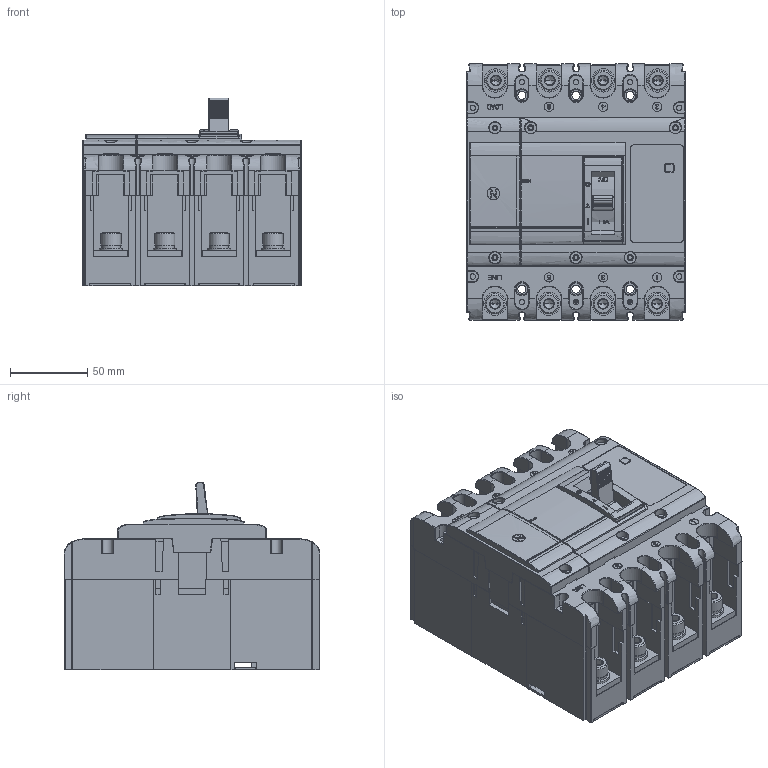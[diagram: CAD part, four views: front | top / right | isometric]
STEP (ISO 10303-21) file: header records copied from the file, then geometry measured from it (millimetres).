
FILE_DESCRIPTION((''),'2;1');
FILE_NAME('2TZD-259-1017-1-32_ASM_ASM','2019-03-16T',('Administrator'),(''),'PRO/ENGINEER BY PARAMETRIC TECHNOLOGY CORPORATION, 2017170','PRO/ENGINEER BY PARAMETRIC TECHNOLOGY CORPORATION, 2017170','');
FILE_SCHEMA(('CONFIG_CONTROL_DESIGN'));
Products named in the file (29): JIZUOM-4P_1; 5TZD-024-1026_ASM_3_ASM; 8TZD-585-223_5; 5TZD_552_055_ASM_7_ASM; 8TZD_253_1013-TKAN_5; 8TZD-282-1035_3; 8TZD-860-1023_2; GB_T848-8_3; GB_T93-8_4; GB_T70_1-M8X20_3; GB_T9074_4-M3X20_3; 8TZD_265_008_4; 8TZD_742_1050X_9; 8TZD-742-1061_4; 8TZD-585-1040_2; 5TZD-599-1037-1-8_ASM_1_ASM; 5TZD-599-1038-1-8_ASM_1_ASM; 5TZD-599-1039-1-8_ASM_3_ASM; 5TZD-503-1004-2_ASM_1_ASM; NXIANG-JIEXIANBAN_2; 5TZD-503-1004-3_ASM_3_ASM; 5TZD-503-1004_ASM_2_ASM; 2TZD-259-1017-1-32_ASM_18_ASM; 8TZD_742_1096; 4P-ZG; 8TZD_253_1262; 4P-SG; 4P-NG; 2TZD-259-1017-1-32_ASM_ASM
Assembly tree (63 placements, depth 6):
  2TZD-259-1017-1-32_ASM_ASM
    2TZD-259-1017-1-32_ASM_18_ASM
      5TZD-024-1026_ASM_3_ASM
        JIZUOM-4P_1
      5TZD_552_055_ASM_7_ASM  x4
        8TZD-585-223_5
      8TZD_253_1013-TKAN_5
      8TZD-282-1035_3
      8TZD-860-1023_2
      GB_T848-8_3  x8
      GB_T93-8_4  x8
      GB_T70_1-M8X20_3  x8
      GB_T9074_4-M3X20_3  x2
      8TZD_265_008_4
      8TZD_742_1050X_9  x4
      8TZD-742-1061_4
      5TZD-599-1039-1-8_ASM_3_ASM  x4
        5TZD-599-1038-1-8_ASM_1_ASM
          5TZD-599-1037-1-8_ASM_1_ASM
            8TZD-585-1040_2
      5TZD-503-1004_ASM_2_ASM
        5TZD-503-1004-2_ASM_1_ASM
          5TZD-599-1037-1-8_ASM_1_ASM
            8TZD-585-1040_2
        5TZD-503-1004-3_ASM_3_ASM
          NXIANG-JIEXIANBAN_2
    8TZD_742_1096  x4
    4P-ZG
    8TZD_253_1262
    4P-SG
    4P-NG
Bounding box: 141.6 x 165.5 x 121.57 mm (x, y, z)
Volume: 1737068.6 mm3; surface area: 443993.3 mm2
Topology: 54 solids, 101 shells, 4758 faces, 12958 edges, 8465 vertices
Faces by surface type: plane 3134, cylinder 1099, bspline 157, cone 128, torus 106, sphere 82, extrusion 52
Entity records: 146887 total; most frequent: CARTESIAN_POINT 40438, ORIENTED_EDGE 22766, DIRECTION 21003, EDGE_CURVE 11401, VECTOR 8415, LINE 8363, VERTEX_POINT 7469, AXIS2_PLACEMENT_3D 6294
